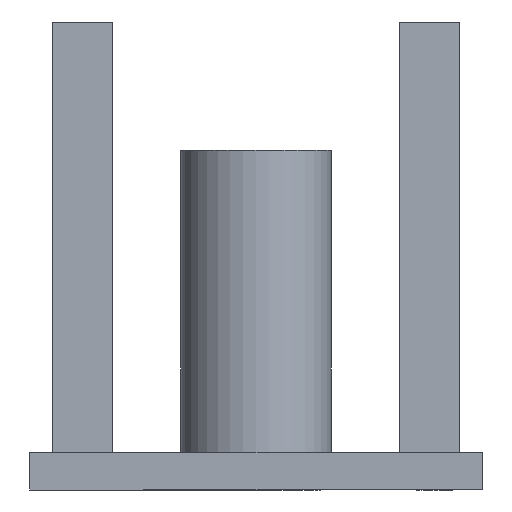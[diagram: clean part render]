
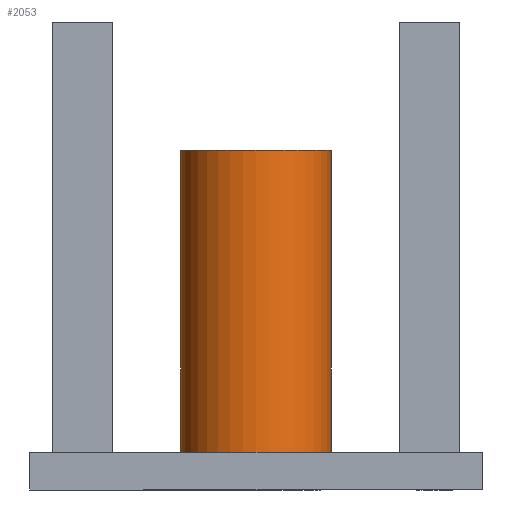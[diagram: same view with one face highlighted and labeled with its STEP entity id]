
A CAD part, left-side view. The second image highlights one B-rep face of the part: STEP entity #2053.
In plain terms, the highlighted cylindrical face has radius 10 mm (diameter 20 mm), a full revolution.
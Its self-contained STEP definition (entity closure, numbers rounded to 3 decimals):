
#72 = PLANE('',#73);
#73 = AXIS2_PLACEMENT_3D('',#74,#75,#76);
#74 = CARTESIAN_POINT('',(-50.,30.,5.));
#75 = DIRECTION('',(0.,0.,-1.));
#76 = DIRECTION('',(1.,0.,0.));
#833 = EDGE_CURVE('',#834,#834,#836,.T.);
#834 = VERTEX_POINT('',#835);
#835 = CARTESIAN_POINT('',(-24.5,0.,5.));
#836 = SURFACE_CURVE('',#837,(#842,#853),.PCURVE_S1.);
#837 = CIRCLE('',#838,10.);
#838 = AXIS2_PLACEMENT_3D('',#839,#840,#841);
#839 = CARTESIAN_POINT('',(-34.5,0.,5.));
#840 = DIRECTION('',(-0.,0.,1.));
#841 = DIRECTION('',(1.,0.,0.));
#842 = PCURVE('',#72,#843);
#843 = DEFINITIONAL_REPRESENTATION('',(#844),#852);
#844 = ( BOUNDED_CURVE() B_SPLINE_CURVE(2,(#845,#846,#847,#848,#849,#850
,#851),.UNSPECIFIED.,.T.,.F.) B_SPLINE_CURVE_WITH_KNOTS((1,2,2,2,2,1),(
    -2.094,0.,2.094,4.189,6.283,
8.378),.UNSPECIFIED.) CURVE() GEOMETRIC_REPRESENTATION_ITEM() 
RATIONAL_B_SPLINE_CURVE((1.,0.5,1.,0.5,1.,0.5,1.)) REPRESENTATION_ITEM(
  '') );
#845 = CARTESIAN_POINT('',(25.5,30.));
#846 = CARTESIAN_POINT('',(25.5,12.679));
#847 = CARTESIAN_POINT('',(10.5,21.34));
#848 = CARTESIAN_POINT('',(-4.5,30.));
#849 = CARTESIAN_POINT('',(10.5,38.66));
#850 = CARTESIAN_POINT('',(25.5,47.321));
#851 = CARTESIAN_POINT('',(25.5,30.));
#852 = ( GEOMETRIC_REPRESENTATION_CONTEXT(2) 
PARAMETRIC_REPRESENTATION_CONTEXT() REPRESENTATION_CONTEXT('2D SPACE',''
  ) );
#853 = PCURVE('',#854,#859);
#854 = CYLINDRICAL_SURFACE('',#855,10.);
#855 = AXIS2_PLACEMENT_3D('',#856,#857,#858);
#856 = CARTESIAN_POINT('',(-34.5,0.,45.));
#857 = DIRECTION('',(-0.,0.,1.));
#858 = DIRECTION('',(1.,0.,0.));
#859 = DEFINITIONAL_REPRESENTATION('',(#860),#864);
#860 = LINE('',#861,#862);
#861 = CARTESIAN_POINT('',(-6.283,-40.));
#862 = VECTOR('',#863,1.);
#863 = DIRECTION('',(1.,-0.));
#864 = ( GEOMETRIC_REPRESENTATION_CONTEXT(2) 
PARAMETRIC_REPRESENTATION_CONTEXT() REPRESENTATION_CONTEXT('2D SPACE',''
  ) );
#2053 = ADVANCED_FACE('',(#2054),#854,.T.);
#2054 = FACE_BOUND('',#2055,.F.);
#2055 = EDGE_LOOP('',(#2056,#2085,#2106,#2107));
#2056 = ORIENTED_EDGE('',*,*,#2057,.F.);
#2057 = EDGE_CURVE('',#2058,#2058,#2060,.T.);
#2058 = VERTEX_POINT('',#2059);
#2059 = CARTESIAN_POINT('',(-24.5,0.,45.));
#2060 = SURFACE_CURVE('',#2061,(#2066,#2073),.PCURVE_S1.);
#2061 = CIRCLE('',#2062,10.);
#2062 = AXIS2_PLACEMENT_3D('',#2063,#2064,#2065);
#2063 = CARTESIAN_POINT('',(-34.5,0.,45.));
#2064 = DIRECTION('',(0.,0.,-1.));
#2065 = DIRECTION('',(1.,0.,0.));
#2066 = PCURVE('',#854,#2067);
#2067 = DEFINITIONAL_REPRESENTATION('',(#2068),#2072);
#2068 = LINE('',#2069,#2070);
#2069 = CARTESIAN_POINT('',(-0.,0.));
#2070 = VECTOR('',#2071,1.);
#2071 = DIRECTION('',(-1.,0.));
#2072 = ( GEOMETRIC_REPRESENTATION_CONTEXT(2) 
PARAMETRIC_REPRESENTATION_CONTEXT() REPRESENTATION_CONTEXT('2D SPACE',''
  ) );
#2073 = PCURVE('',#2074,#2079);
#2074 = PLANE('',#2075);
#2075 = AXIS2_PLACEMENT_3D('',#2076,#2077,#2078);
#2076 = CARTESIAN_POINT('',(-34.5,0.,45.));
#2077 = DIRECTION('',(0.,0.,-1.));
#2078 = DIRECTION('',(1.,0.,0.));
#2079 = DEFINITIONAL_REPRESENTATION('',(#2080),#2084);
#2080 = CIRCLE('',#2081,10.);
#2081 = AXIS2_PLACEMENT_2D('',#2082,#2083);
#2082 = CARTESIAN_POINT('',(0.,0.));
#2083 = DIRECTION('',(1.,0.));
#2084 = ( GEOMETRIC_REPRESENTATION_CONTEXT(2) 
PARAMETRIC_REPRESENTATION_CONTEXT() REPRESENTATION_CONTEXT('2D SPACE',''
  ) );
#2085 = ORIENTED_EDGE('',*,*,#2086,.T.);
#2086 = EDGE_CURVE('',#2058,#834,#2087,.T.);
#2087 = SEAM_CURVE('',#2088,(#2092,#2099),.PCURVE_S1.);
#2088 = LINE('',#2089,#2090);
#2089 = CARTESIAN_POINT('',(-24.5,0.,45.));
#2090 = VECTOR('',#2091,1.);
#2091 = DIRECTION('',(0.,0.,-1.));
#2092 = PCURVE('',#854,#2093);
#2093 = DEFINITIONAL_REPRESENTATION('',(#2094),#2098);
#2094 = LINE('',#2095,#2096);
#2095 = CARTESIAN_POINT('',(-6.283,0.));
#2096 = VECTOR('',#2097,1.);
#2097 = DIRECTION('',(-0.,-1.));
#2098 = ( GEOMETRIC_REPRESENTATION_CONTEXT(2) 
PARAMETRIC_REPRESENTATION_CONTEXT() REPRESENTATION_CONTEXT('2D SPACE',''
  ) );
#2099 = PCURVE('',#854,#2100);
#2100 = DEFINITIONAL_REPRESENTATION('',(#2101),#2105);
#2101 = LINE('',#2102,#2103);
#2102 = CARTESIAN_POINT('',(-0.,0.));
#2103 = VECTOR('',#2104,1.);
#2104 = DIRECTION('',(-0.,-1.));
#2105 = ( GEOMETRIC_REPRESENTATION_CONTEXT(2) 
PARAMETRIC_REPRESENTATION_CONTEXT() REPRESENTATION_CONTEXT('2D SPACE',''
  ) );
#2106 = ORIENTED_EDGE('',*,*,#833,.F.);
#2107 = ORIENTED_EDGE('',*,*,#2086,.F.);
